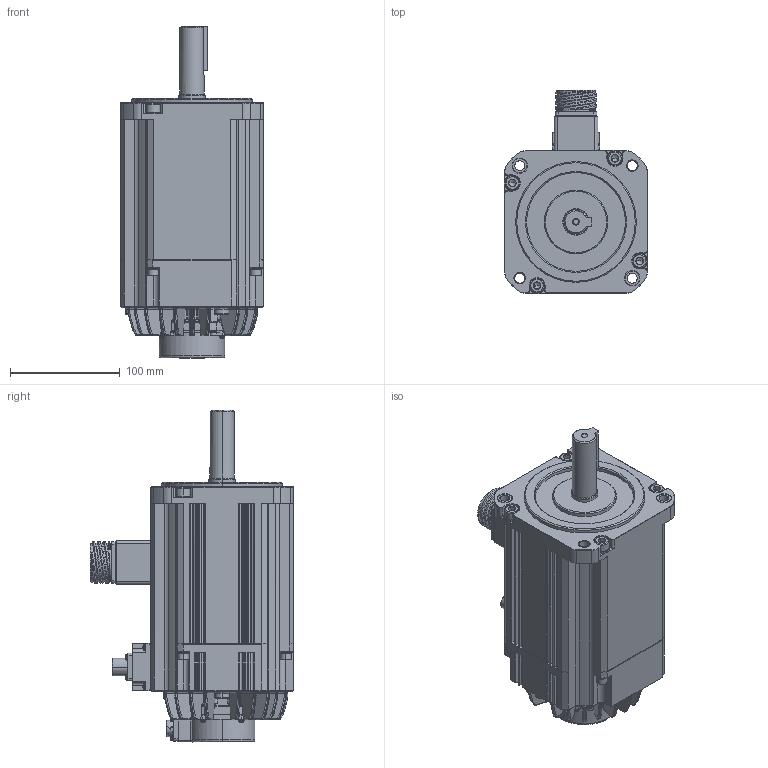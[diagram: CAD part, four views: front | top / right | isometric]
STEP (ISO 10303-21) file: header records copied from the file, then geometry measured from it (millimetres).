
FILE_DESCRIPTION (( 'STEP AP203' ), '1' );
FILE_NAME ('TSM3565N7375E721.STEP', '2018-06-29T06:30:00', ( '' ), ( '' ), 'SwSTEP 2.0', 'SolidWorks 2017', '' );
FILE_SCHEMA (( 'CONFIG_CONTROL_DESIGN' ));
Products named in the file (1): TSM3565N7375E721
Bounding box: 130.5 x 185.2 x 302.5 mm (x, y, z)
Surface area: 201166 mm2 (no closed solid volume)
Topology: 0 solids, 10 shells, 3363 faces, 8483 edges, 5161 vertices
Faces by surface type: plane 1170, bspline 1120, cylinder 845, cone 228
Entity records: 159891 total; most frequent: CARTESIAN_POINT 87977, ORIENTED_EDGE 16752, DIRECTION 12337, EDGE_CURVE 8378, VERTEX_POINT 5161, AXIS2_PLACEMENT_3D 4208, VECTOR 3921, LINE 3921
